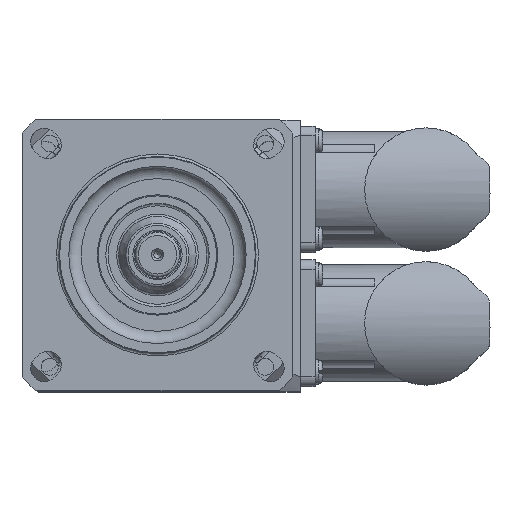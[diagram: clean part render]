
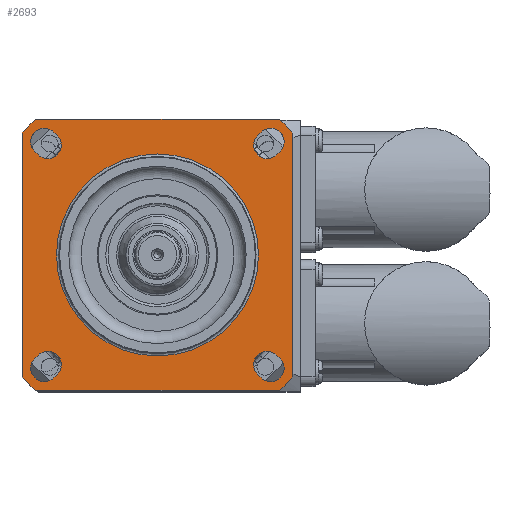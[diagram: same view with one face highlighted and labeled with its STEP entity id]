
A CAD part, top view. The second image highlights one B-rep face of the part: STEP entity #2693.
In plain terms, the highlighted planar face has unit normal (0, 0, 1) as drawn and (0, -1, 0) by its records, which use the part's own axes.
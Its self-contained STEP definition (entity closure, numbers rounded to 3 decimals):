
#853=LINE('',#19921,#1395);
#857=LINE('',#19930,#1399);
#861=LINE('',#19939,#1403);
#865=LINE('',#19948,#1407);
#894=LINE('',#20240,#1436);
#895=LINE('',#20245,#1437);
#896=LINE('',#20248,#1438);
#897=LINE('',#20253,#1439);
#898=LINE('',#20256,#1440);
#899=LINE('',#20261,#1441);
#900=LINE('',#20264,#1442);
#901=LINE('',#20269,#1443);
#1395=VECTOR('',#15457,1.);
#1399=VECTOR('',#15463,1.);
#1403=VECTOR('',#15469,1.);
#1407=VECTOR('',#15475,1.);
#1436=VECTOR('',#15516,1.);
#1437=VECTOR('',#15519,1.);
#1438=VECTOR('',#15522,1.);
#1439=VECTOR('',#15525,1.);
#1440=VECTOR('',#15528,1.);
#1441=VECTOR('',#15531,1.);
#1442=VECTOR('',#15534,1.);
#1443=VECTOR('',#15537,1.);
#2693=ADVANCED_FACE('',(#4104,#4105,#4106,#4107,#4108,#3604),#3280,.T.);
#3280=PLANE('',#13307);
#3604=FACE_OUTER_BOUND('',#4865,.T.);
#4104=FACE_BOUND('',#4860,.T.);
#4105=FACE_BOUND('',#4861,.T.);
#4106=FACE_BOUND('',#4862,.T.);
#4107=FACE_BOUND('',#4863,.T.);
#4108=FACE_BOUND('',#4864,.T.);
#4860=EDGE_LOOP('',(#6843));
#4861=EDGE_LOOP('',(#6844,#6845,#6846,#6847));
#4862=EDGE_LOOP('',(#6848,#6849,#6850,#6851));
#4863=EDGE_LOOP('',(#6852,#6853,#6854,#6855));
#4864=EDGE_LOOP('',(#6856,#6857,#6858,#6859));
#4865=EDGE_LOOP('',(#6860,#6861,#6862,#6863,#6864,#6865,#6866,#6867));
#6843=ORIENTED_EDGE('',*,*,#10965,.T.);
#6844=ORIENTED_EDGE('',*,*,#10966,.T.);
#6845=ORIENTED_EDGE('',*,*,#10967,.F.);
#6846=ORIENTED_EDGE('',*,*,#10968,.F.);
#6847=ORIENTED_EDGE('',*,*,#10969,.F.);
#6848=ORIENTED_EDGE('',*,*,#10970,.T.);
#6849=ORIENTED_EDGE('',*,*,#10971,.F.);
#6850=ORIENTED_EDGE('',*,*,#10972,.F.);
#6851=ORIENTED_EDGE('',*,*,#10973,.F.);
#6852=ORIENTED_EDGE('',*,*,#10974,.T.);
#6853=ORIENTED_EDGE('',*,*,#10975,.F.);
#6854=ORIENTED_EDGE('',*,*,#10976,.F.);
#6855=ORIENTED_EDGE('',*,*,#10977,.F.);
#6856=ORIENTED_EDGE('',*,*,#10978,.T.);
#6857=ORIENTED_EDGE('',*,*,#10979,.F.);
#6858=ORIENTED_EDGE('',*,*,#10980,.F.);
#6859=ORIENTED_EDGE('',*,*,#10981,.F.);
#6860=ORIENTED_EDGE('',*,*,#10982,.T.);
#6861=ORIENTED_EDGE('',*,*,#10908,.T.);
#6862=ORIENTED_EDGE('',*,*,#10983,.T.);
#6863=ORIENTED_EDGE('',*,*,#10900,.T.);
#6864=ORIENTED_EDGE('',*,*,#10984,.T.);
#6865=ORIENTED_EDGE('',*,*,#10896,.T.);
#6866=ORIENTED_EDGE('',*,*,#10985,.T.);
#6867=ORIENTED_EDGE('',*,*,#10904,.F.);
#9492=VERTEX_POINT('',#19916);
#9494=VERTEX_POINT('',#19920);
#9496=VERTEX_POINT('',#19925);
#9498=VERTEX_POINT('',#19929);
#9500=VERTEX_POINT('',#19934);
#9502=VERTEX_POINT('',#19938);
#9504=VERTEX_POINT('',#19943);
#9506=VERTEX_POINT('',#19947);
#9563=VERTEX_POINT('',#20239);
#9564=VERTEX_POINT('',#20241);
#9565=VERTEX_POINT('',#20242);
#9566=VERTEX_POINT('',#20244);
#9567=VERTEX_POINT('',#20246);
#9568=VERTEX_POINT('',#20249);
#9569=VERTEX_POINT('',#20250);
#9570=VERTEX_POINT('',#20252);
#9571=VERTEX_POINT('',#20254);
#9572=VERTEX_POINT('',#20257);
#9573=VERTEX_POINT('',#20258);
#9574=VERTEX_POINT('',#20260);
#9575=VERTEX_POINT('',#20262);
#9576=VERTEX_POINT('',#20265);
#9577=VERTEX_POINT('',#20266);
#9578=VERTEX_POINT('',#20268);
#9579=VERTEX_POINT('',#20270);
#10896=EDGE_CURVE('',#9492,#9494,#853,.T.);
#10900=EDGE_CURVE('',#9496,#9498,#857,.T.);
#10904=EDGE_CURVE('',#9502,#9500,#861,.T.);
#10908=EDGE_CURVE('',#9504,#9506,#865,.T.);
#10965=EDGE_CURVE('',#9563,#9563,#12280,.T.);
#10966=EDGE_CURVE('',#9564,#9565,#894,.T.);
#10967=EDGE_CURVE('',#9566,#9565,#12281,.T.);
#10968=EDGE_CURVE('',#9567,#9566,#895,.T.);
#10969=EDGE_CURVE('',#9564,#9567,#12282,.T.);
#10970=EDGE_CURVE('',#9568,#9569,#896,.T.);
#10971=EDGE_CURVE('',#9570,#9569,#12283,.T.);
#10972=EDGE_CURVE('',#9571,#9570,#897,.T.);
#10973=EDGE_CURVE('',#9568,#9571,#12284,.T.);
#10974=EDGE_CURVE('',#9572,#9573,#898,.T.);
#10975=EDGE_CURVE('',#9574,#9573,#12285,.T.);
#10976=EDGE_CURVE('',#9575,#9574,#899,.T.);
#10977=EDGE_CURVE('',#9572,#9575,#12286,.T.);
#10978=EDGE_CURVE('',#9576,#9577,#900,.T.);
#10979=EDGE_CURVE('',#9578,#9577,#12287,.T.);
#10980=EDGE_CURVE('',#9579,#9578,#901,.T.);
#10981=EDGE_CURVE('',#9576,#9579,#12288,.T.);
#10982=EDGE_CURVE('',#9502,#9504,#12289,.T.);
#10983=EDGE_CURVE('',#9506,#9496,#12290,.T.);
#10984=EDGE_CURVE('',#9498,#9492,#12291,.T.);
#10985=EDGE_CURVE('',#9494,#9500,#12292,.T.);
#12280=CIRCLE('',#13294,20.5);
#12281=CIRCLE('',#13295,2.75);
#12282=CIRCLE('',#13296,2.75);
#12283=CIRCLE('',#13297,2.75);
#12284=CIRCLE('',#13298,2.75);
#12285=CIRCLE('',#13299,2.75);
#12286=CIRCLE('',#13300,2.75);
#12287=CIRCLE('',#13301,2.75);
#12288=CIRCLE('',#13302,2.75);
#12289=CIRCLE('',#13303,37.);
#12290=CIRCLE('',#13304,37.);
#12291=CIRCLE('',#13305,37.);
#12292=CIRCLE('',#13306,37.);
#13294=AXIS2_PLACEMENT_3D('',#20238,#15514,#15515);
#13295=AXIS2_PLACEMENT_3D('',#20243,#15517,#15518);
#13296=AXIS2_PLACEMENT_3D('',#20247,#15520,#15521);
#13297=AXIS2_PLACEMENT_3D('',#20251,#15523,#15524);
#13298=AXIS2_PLACEMENT_3D('',#20255,#15526,#15527);
#13299=AXIS2_PLACEMENT_3D('',#20259,#15529,#15530);
#13300=AXIS2_PLACEMENT_3D('',#20263,#15532,#15533);
#13301=AXIS2_PLACEMENT_3D('',#20267,#15535,#15536);
#13302=AXIS2_PLACEMENT_3D('',#20271,#15538,#15539);
#13303=AXIS2_PLACEMENT_3D('',#20272,#15540,#15541);
#13304=AXIS2_PLACEMENT_3D('',#20273,#15542,#15543);
#13305=AXIS2_PLACEMENT_3D('',#20274,#15544,#15545);
#13306=AXIS2_PLACEMENT_3D('',#20275,#15546,#15547);
#13307=AXIS2_PLACEMENT_3D('',#20276,#15548,#15549);
#15457=DIRECTION('',(-1.,0.,0.));
#15463=DIRECTION('',(0.,0.,1.));
#15469=DIRECTION('',(0.,0.,1.));
#15475=DIRECTION('',(1.,0.,0.));
#15514=DIRECTION('',(0.,1.,0.));
#15515=DIRECTION('',(0.,0.,-1.));
#15516=DIRECTION('',(0.707,0.,0.707));
#15517=DIRECTION('',(0.,-1.,0.));
#15518=DIRECTION('',(1.,0.,0.));
#15519=DIRECTION('',(0.707,0.,0.707));
#15520=DIRECTION('',(0.,-1.,0.));
#15521=DIRECTION('',(1.,0.,0.));
#15522=DIRECTION('',(-0.707,0.,0.707));
#15523=DIRECTION('',(0.,-1.,0.));
#15524=DIRECTION('',(0.,0.,1.));
#15525=DIRECTION('',(-0.707,0.,0.707));
#15526=DIRECTION('',(0.,-1.,0.));
#15527=DIRECTION('',(0.,0.,1.));
#15528=DIRECTION('',(-0.707,0.,-0.707));
#15529=DIRECTION('',(0.,-1.,0.));
#15530=DIRECTION('',(-1.,0.,0.));
#15531=DIRECTION('',(-0.707,0.,-0.707));
#15532=DIRECTION('',(0.,-1.,0.));
#15533=DIRECTION('',(-1.,0.,0.));
#15534=DIRECTION('',(0.707,0.,-0.707));
#15535=DIRECTION('',(0.,-1.,0.));
#15536=DIRECTION('',(0.,0.,-1.));
#15537=DIRECTION('',(0.707,0.,-0.707));
#15538=DIRECTION('',(0.,-1.,0.));
#15539=DIRECTION('',(0.,0.,-1.));
#15540=DIRECTION('',(0.,-1.,0.));
#15541=DIRECTION('',(-1.,0.,0.));
#15542=DIRECTION('',(0.,-1.,0.));
#15543=DIRECTION('',(-1.,0.,0.));
#15544=DIRECTION('',(0.,-1.,0.));
#15545=DIRECTION('',(-1.,0.,0.));
#15546=DIRECTION('',(0.,-1.,0.));
#15547=DIRECTION('',(-1.,0.,0.));
#15548=DIRECTION('',(0.,-1.,0.));
#15549=DIRECTION('',(0.,0.,-1.));
#19916=CARTESIAN_POINT('',(17.254,-0.5,20.));
#19920=CARTESIAN_POINT('',(-32.254,-0.5,20.));
#19921=CARTESIAN_POINT('',(-7.5,-0.5,20.));
#19925=CARTESIAN_POINT('',(20.,-0.5,-32.254));
#19929=CARTESIAN_POINT('',(20.,-0.5,17.254));
#19930=CARTESIAN_POINT('',(20.,-0.5,-35.));
#19934=CARTESIAN_POINT('',(-35.,-0.5,17.254));
#19938=CARTESIAN_POINT('',(-35.,-0.5,-32.254));
#19939=CARTESIAN_POINT('',(-35.,-0.5,-35.));
#19943=CARTESIAN_POINT('',(-32.254,-0.5,-35.));
#19947=CARTESIAN_POINT('',(17.254,-0.5,-35.));
#19948=CARTESIAN_POINT('',(-7.5,-0.5,-35.));
#20238=CARTESIAN_POINT('',(-7.5,-0.5,-7.5));
#20239=CARTESIAN_POINT('',(-7.5,-0.5,-28.));
#20240=CARTESIAN_POINT('',(-32.072,-0.5,-28.183));
#20241=CARTESIAN_POINT('',(-32.426,-0.5,-28.536));
#20242=CARTESIAN_POINT('',(-31.718,-0.5,-27.829));
#20243=CARTESIAN_POINT('',(-29.774,-0.5,-29.774));
#20244=CARTESIAN_POINT('',(-27.829,-0.5,-31.718));
#20245=CARTESIAN_POINT('',(-28.183,-0.5,-32.072));
#20246=CARTESIAN_POINT('',(-28.536,-0.5,-32.426));
#20247=CARTESIAN_POINT('',(-30.481,-0.5,-30.481));
#20248=CARTESIAN_POINT('',(13.183,-0.5,-32.072));
#20249=CARTESIAN_POINT('',(13.536,-0.5,-32.426));
#20250=CARTESIAN_POINT('',(12.829,-0.5,-31.718));
#20251=CARTESIAN_POINT('',(14.774,-0.5,-29.774));
#20252=CARTESIAN_POINT('',(16.718,-0.5,-27.829));
#20253=CARTESIAN_POINT('',(17.072,-0.5,-28.183));
#20254=CARTESIAN_POINT('',(17.426,-0.5,-28.536));
#20255=CARTESIAN_POINT('',(15.481,-0.5,-30.481));
#20256=CARTESIAN_POINT('',(17.072,-0.5,13.183));
#20257=CARTESIAN_POINT('',(17.426,-0.5,13.536));
#20258=CARTESIAN_POINT('',(16.718,-0.5,12.829));
#20259=CARTESIAN_POINT('',(14.774,-0.5,14.774));
#20260=CARTESIAN_POINT('',(12.829,-0.5,16.718));
#20261=CARTESIAN_POINT('',(13.183,-0.5,17.072));
#20262=CARTESIAN_POINT('',(13.536,-0.5,17.426));
#20263=CARTESIAN_POINT('',(15.481,-0.5,15.481));
#20264=CARTESIAN_POINT('',(-28.183,-0.5,17.072));
#20265=CARTESIAN_POINT('',(-28.536,-0.5,17.426));
#20266=CARTESIAN_POINT('',(-27.829,-0.5,16.718));
#20267=CARTESIAN_POINT('',(-29.774,-0.5,14.774));
#20268=CARTESIAN_POINT('',(-31.718,-0.5,12.829));
#20269=CARTESIAN_POINT('',(-32.072,-0.5,13.183));
#20270=CARTESIAN_POINT('',(-32.426,-0.5,13.536));
#20271=CARTESIAN_POINT('',(-30.481,-0.5,15.481));
#20272=CARTESIAN_POINT('',(-7.5,-0.5,-7.5));
#20273=CARTESIAN_POINT('',(-7.5,-0.5,-7.5));
#20274=CARTESIAN_POINT('',(-7.5,-0.5,-7.5));
#20275=CARTESIAN_POINT('',(-7.5,-0.5,-7.5));
#20276=CARTESIAN_POINT('',(-7.5,-0.5,-35.));
